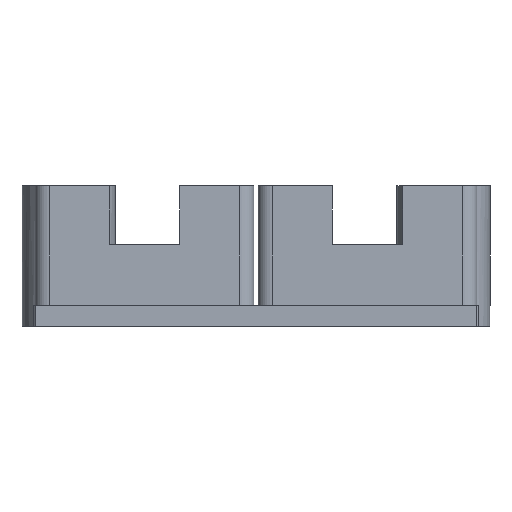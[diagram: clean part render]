
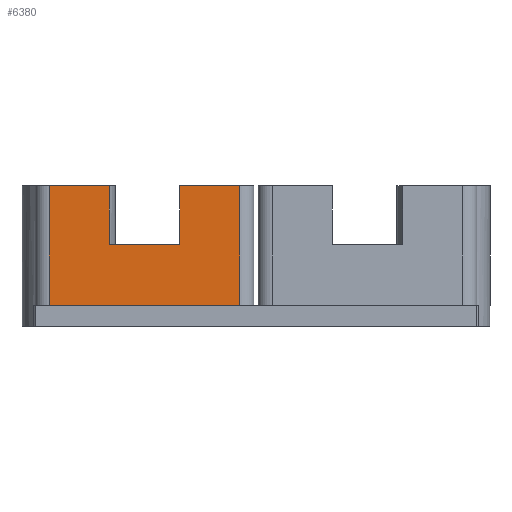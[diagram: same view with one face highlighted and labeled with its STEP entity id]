
A CAD part, front view. The second image highlights one B-rep face of the part: STEP entity #6380.
In plain terms, the highlighted planar face has unit normal (0, -1, 0).
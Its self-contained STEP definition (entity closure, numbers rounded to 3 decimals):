
#836 = PLANE('',#837);
#837 = AXIS2_PLACEMENT_3D('',#838,#839,#840);
#838 = CARTESIAN_POINT('',(-37.925,0.175,11.8));
#839 = DIRECTION('',(0.,0.,1.));
#840 = DIRECTION('',(1.,0.,0.));
#1016 = PLANE('',#1017);
#1017 = AXIS2_PLACEMENT_3D('',#1018,#1019,#1020);
#1018 = CARTESIAN_POINT('',(-18.875,19.225,22.));
#1019 = DIRECTION('',(0.,0.,1.));
#1020 = DIRECTION('',(1.,0.,0.));
#1042 = CYLINDRICAL_SURFACE('',#1043,1.2);
#1043 = AXIS2_PLACEMENT_3D('',#1044,#1045,#1046);
#1044 = CARTESIAN_POINT('',(-17.675,20.425,11.8));
#1045 = DIRECTION('',(0.,0.,1.));
#1046 = DIRECTION('',(-1.,-0.,0.));
#3582 = VERTEX_POINT('',#3583);
#3583 = CARTESIAN_POINT('',(-1.375,19.225,11.8));
#3602 = CYLINDRICAL_SURFACE('',#3603,1.2);
#3603 = AXIS2_PLACEMENT_3D('',#3604,#3605,#3606);
#3604 = CARTESIAN_POINT('',(-1.375,20.425,11.8));
#3605 = DIRECTION('',(0.,0.,1.));
#3606 = DIRECTION('',(1.,0.,-0.));
#3614 = EDGE_CURVE('',#3615,#3582,#3617,.T.);
#3615 = VERTEX_POINT('',#3616);
#3616 = CARTESIAN_POINT('',(-17.675,19.225,11.8));
#3617 = SURFACE_CURVE('',#3618,(#3622,#3629),.PCURVE_S1.);
#3618 = LINE('',#3619,#3620);
#3619 = CARTESIAN_POINT('',(-18.875,19.225,11.8));
#3620 = VECTOR('',#3621,1.);
#3621 = DIRECTION('',(1.,0.,0.));
#3622 = PCURVE('',#836,#3623);
#3623 = DEFINITIONAL_REPRESENTATION('',(#3624),#3628);
#3624 = LINE('',#3625,#3626);
#3625 = CARTESIAN_POINT('',(19.05,19.05));
#3626 = VECTOR('',#3627,1.);
#3627 = DIRECTION('',(1.,0.));
#3628 = ( GEOMETRIC_REPRESENTATION_CONTEXT(2) 
PARAMETRIC_REPRESENTATION_CONTEXT() REPRESENTATION_CONTEXT('2D SPACE',''
  ) );
#3629 = PCURVE('',#3630,#3635);
#3630 = PLANE('',#3631);
#3631 = AXIS2_PLACEMENT_3D('',#3632,#3633,#3634);
#3632 = CARTESIAN_POINT('',(-18.875,19.225,11.8));
#3633 = DIRECTION('',(0.,1.,0.));
#3634 = DIRECTION('',(0.,0.,1.));
#3635 = DEFINITIONAL_REPRESENTATION('',(#3636),#3640);
#3636 = LINE('',#3637,#3638);
#3637 = CARTESIAN_POINT('',(0.,0.));
#3638 = VECTOR('',#3639,1.);
#3639 = DIRECTION('',(0.,1.));
#3640 = ( GEOMETRIC_REPRESENTATION_CONTEXT(2) 
PARAMETRIC_REPRESENTATION_CONTEXT() REPRESENTATION_CONTEXT('2D SPACE',''
  ) );
#3668 = EDGE_CURVE('',#3615,#3669,#3671,.T.);
#3669 = VERTEX_POINT('',#3670);
#3670 = CARTESIAN_POINT('',(-17.675,19.225,22.));
#3671 = SURFACE_CURVE('',#3672,(#3676,#3683),.PCURVE_S1.);
#3672 = LINE('',#3673,#3674);
#3673 = CARTESIAN_POINT('',(-17.675,19.225,11.8));
#3674 = VECTOR('',#3675,1.);
#3675 = DIRECTION('',(0.,0.,1.));
#3676 = PCURVE('',#1042,#3677);
#3677 = DEFINITIONAL_REPRESENTATION('',(#3678),#3682);
#3678 = LINE('',#3679,#3680);
#3679 = CARTESIAN_POINT('',(1.571,0.));
#3680 = VECTOR('',#3681,1.);
#3681 = DIRECTION('',(0.,1.));
#3682 = ( GEOMETRIC_REPRESENTATION_CONTEXT(2) 
PARAMETRIC_REPRESENTATION_CONTEXT() REPRESENTATION_CONTEXT('2D SPACE',''
  ) );
#3683 = PCURVE('',#3630,#3684);
#3684 = DEFINITIONAL_REPRESENTATION('',(#3685),#3689);
#3685 = LINE('',#3686,#3687);
#3686 = CARTESIAN_POINT('',(0.,1.2));
#3687 = VECTOR('',#3688,1.);
#3688 = DIRECTION('',(1.,0.));
#3689 = ( GEOMETRIC_REPRESENTATION_CONTEXT(2) 
PARAMETRIC_REPRESENTATION_CONTEXT() REPRESENTATION_CONTEXT('2D SPACE',''
  ) );
#3719 = EDGE_CURVE('',#3669,#3720,#3722,.T.);
#3720 = VERTEX_POINT('',#3721);
#3721 = CARTESIAN_POINT('',(-12.525,19.225,22.));
#3722 = SURFACE_CURVE('',#3723,(#3727,#3734),.PCURVE_S1.);
#3723 = LINE('',#3724,#3725);
#3724 = CARTESIAN_POINT('',(-18.875,19.225,22.));
#3725 = VECTOR('',#3726,1.);
#3726 = DIRECTION('',(1.,0.,0.));
#3727 = PCURVE('',#1016,#3728);
#3728 = DEFINITIONAL_REPRESENTATION('',(#3729),#3733);
#3729 = LINE('',#3730,#3731);
#3730 = CARTESIAN_POINT('',(0.,0.));
#3731 = VECTOR('',#3732,1.);
#3732 = DIRECTION('',(1.,0.));
#3733 = ( GEOMETRIC_REPRESENTATION_CONTEXT(2) 
PARAMETRIC_REPRESENTATION_CONTEXT() REPRESENTATION_CONTEXT('2D SPACE',''
  ) );
#3734 = PCURVE('',#3630,#3735);
#3735 = DEFINITIONAL_REPRESENTATION('',(#3736),#3740);
#3736 = LINE('',#3737,#3738);
#3737 = CARTESIAN_POINT('',(10.2,0.));
#3738 = VECTOR('',#3739,1.);
#3739 = DIRECTION('',(0.,1.));
#3740 = ( GEOMETRIC_REPRESENTATION_CONTEXT(2) 
PARAMETRIC_REPRESENTATION_CONTEXT() REPRESENTATION_CONTEXT('2D SPACE',''
  ) );
#3757 = PLANE('',#3758);
#3758 = AXIS2_PLACEMENT_3D('',#3759,#3760,#3761);
#3759 = CARTESIAN_POINT('',(-12.525,18.075,17.));
#3760 = DIRECTION('',(1.,0.,0.));
#3761 = DIRECTION('',(0.,0.,1.));
#6380 = ADVANCED_FACE('',(#6381),#3630,.F.);
#6381 = FACE_BOUND('',#6382,.F.);
#6382 = EDGE_LOOP('',(#6383,#6384,#6385,#6386,#6407,#6433,#6459,#6487));
#6383 = ORIENTED_EDGE('',*,*,#3614,.F.);
#6384 = ORIENTED_EDGE('',*,*,#3668,.T.);
#6385 = ORIENTED_EDGE('',*,*,#3719,.T.);
#6386 = ORIENTED_EDGE('',*,*,#6387,.T.);
#6387 = EDGE_CURVE('',#3720,#6388,#6390,.T.);
#6388 = VERTEX_POINT('',#6389);
#6389 = CARTESIAN_POINT('',(-12.525,19.225,17.));
#6390 = SURFACE_CURVE('',#6391,(#6395,#6401),.PCURVE_S1.);
#6391 = LINE('',#6392,#6393);
#6392 = CARTESIAN_POINT('',(-12.525,19.225,14.4));
#6393 = VECTOR('',#6394,1.);
#6394 = DIRECTION('',(0.,0.,-1.));
#6395 = PCURVE('',#3630,#6396);
#6396 = DEFINITIONAL_REPRESENTATION('',(#6397),#6400);
#6397 = B_SPLINE_CURVE_WITH_KNOTS('',1,(#6398,#6399),.UNSPECIFIED.,.F.,
  .F.,(2,2),(-7.6,-2.6),.PIECEWISE_BEZIER_KNOTS.);
#6398 = CARTESIAN_POINT('',(10.2,6.35));
#6399 = CARTESIAN_POINT('',(5.2,6.35));
#6400 = ( GEOMETRIC_REPRESENTATION_CONTEXT(2) 
PARAMETRIC_REPRESENTATION_CONTEXT() REPRESENTATION_CONTEXT('2D SPACE',''
  ) );
#6401 = PCURVE('',#3757,#6402);
#6402 = DEFINITIONAL_REPRESENTATION('',(#6403),#6406);
#6403 = B_SPLINE_CURVE_WITH_KNOTS('',1,(#6404,#6405),.UNSPECIFIED.,.F.,
  .F.,(2,2),(-7.6,-2.6),.PIECEWISE_BEZIER_KNOTS.);
#6404 = CARTESIAN_POINT('',(5.,-1.15));
#6405 = CARTESIAN_POINT('',(0.,-1.15));
#6406 = ( GEOMETRIC_REPRESENTATION_CONTEXT(2) 
PARAMETRIC_REPRESENTATION_CONTEXT() REPRESENTATION_CONTEXT('2D SPACE',''
  ) );
#6407 = ORIENTED_EDGE('',*,*,#6408,.T.);
#6408 = EDGE_CURVE('',#6388,#6409,#6411,.T.);
#6409 = VERTEX_POINT('',#6410);
#6410 = CARTESIAN_POINT('',(-6.525,19.225,17.));
#6411 = SURFACE_CURVE('',#6412,(#6416,#6422),.PCURVE_S1.);
#6412 = LINE('',#6413,#6414);
#6413 = CARTESIAN_POINT('',(-15.7,19.225,17.));
#6414 = VECTOR('',#6415,1.);
#6415 = DIRECTION('',(1.,0.,0.));
#6416 = PCURVE('',#3630,#6417);
#6417 = DEFINITIONAL_REPRESENTATION('',(#6418),#6421);
#6418 = B_SPLINE_CURVE_WITH_KNOTS('',1,(#6419,#6420),.UNSPECIFIED.,.F.,
  .F.,(2,2),(3.175,9.175),.PIECEWISE_BEZIER_KNOTS.);
#6419 = CARTESIAN_POINT('',(5.2,6.35));
#6420 = CARTESIAN_POINT('',(5.2,12.35));
#6421 = ( GEOMETRIC_REPRESENTATION_CONTEXT(2) 
PARAMETRIC_REPRESENTATION_CONTEXT() REPRESENTATION_CONTEXT('2D SPACE',''
  ) );
#6422 = PCURVE('',#6423,#6428);
#6423 = PLANE('',#6424);
#6424 = AXIS2_PLACEMENT_3D('',#6425,#6426,#6427);
#6425 = CARTESIAN_POINT('',(-12.525,18.075,17.));
#6426 = DIRECTION('',(0.,0.,1.));
#6427 = DIRECTION('',(1.,0.,0.));
#6428 = DEFINITIONAL_REPRESENTATION('',(#6429),#6432);
#6429 = B_SPLINE_CURVE_WITH_KNOTS('',1,(#6430,#6431),.UNSPECIFIED.,.F.,
  .F.,(2,2),(3.175,9.175),.PIECEWISE_BEZIER_KNOTS.);
#6430 = CARTESIAN_POINT('',(0.,1.15));
#6431 = CARTESIAN_POINT('',(6.,1.15));
#6432 = ( GEOMETRIC_REPRESENTATION_CONTEXT(2) 
PARAMETRIC_REPRESENTATION_CONTEXT() REPRESENTATION_CONTEXT('2D SPACE',''
  ) );
#6433 = ORIENTED_EDGE('',*,*,#6434,.F.);
#6434 = EDGE_CURVE('',#6435,#6409,#6437,.T.);
#6435 = VERTEX_POINT('',#6436);
#6436 = CARTESIAN_POINT('',(-6.525,19.225,22.));
#6437 = SURFACE_CURVE('',#6438,(#6442,#6448),.PCURVE_S1.);
#6438 = LINE('',#6439,#6440);
#6439 = CARTESIAN_POINT('',(-6.525,19.225,14.4));
#6440 = VECTOR('',#6441,1.);
#6441 = DIRECTION('',(0.,0.,-1.));
#6442 = PCURVE('',#3630,#6443);
#6443 = DEFINITIONAL_REPRESENTATION('',(#6444),#6447);
#6444 = B_SPLINE_CURVE_WITH_KNOTS('',1,(#6445,#6446),.UNSPECIFIED.,.F.,
  .F.,(2,2),(-7.6,-2.6),.PIECEWISE_BEZIER_KNOTS.);
#6445 = CARTESIAN_POINT('',(10.2,12.35));
#6446 = CARTESIAN_POINT('',(5.2,12.35));
#6447 = ( GEOMETRIC_REPRESENTATION_CONTEXT(2) 
PARAMETRIC_REPRESENTATION_CONTEXT() REPRESENTATION_CONTEXT('2D SPACE',''
  ) );
#6448 = PCURVE('',#6449,#6454);
#6449 = PLANE('',#6450);
#6450 = AXIS2_PLACEMENT_3D('',#6451,#6452,#6453);
#6451 = CARTESIAN_POINT('',(-6.525,18.075,17.));
#6452 = DIRECTION('',(1.,0.,0.));
#6453 = DIRECTION('',(0.,0.,1.));
#6454 = DEFINITIONAL_REPRESENTATION('',(#6455),#6458);
#6455 = B_SPLINE_CURVE_WITH_KNOTS('',1,(#6456,#6457),.UNSPECIFIED.,.F.,
  .F.,(2,2),(-7.6,-2.6),.PIECEWISE_BEZIER_KNOTS.);
#6456 = CARTESIAN_POINT('',(5.,-1.15));
#6457 = CARTESIAN_POINT('',(0.,-1.15));
#6458 = ( GEOMETRIC_REPRESENTATION_CONTEXT(2) 
PARAMETRIC_REPRESENTATION_CONTEXT() REPRESENTATION_CONTEXT('2D SPACE',''
  ) );
#6459 = ORIENTED_EDGE('',*,*,#6460,.T.);
#6460 = EDGE_CURVE('',#6435,#6461,#6463,.T.);
#6461 = VERTEX_POINT('',#6462);
#6462 = CARTESIAN_POINT('',(-1.375,19.225,22.));
#6463 = SURFACE_CURVE('',#6464,(#6468,#6475),.PCURVE_S1.);
#6464 = LINE('',#6465,#6466);
#6465 = CARTESIAN_POINT('',(-18.875,19.225,22.));
#6466 = VECTOR('',#6467,1.);
#6467 = DIRECTION('',(1.,0.,0.));
#6468 = PCURVE('',#3630,#6469);
#6469 = DEFINITIONAL_REPRESENTATION('',(#6470),#6474);
#6470 = LINE('',#6471,#6472);
#6471 = CARTESIAN_POINT('',(10.2,0.));
#6472 = VECTOR('',#6473,1.);
#6473 = DIRECTION('',(0.,1.));
#6474 = ( GEOMETRIC_REPRESENTATION_CONTEXT(2) 
PARAMETRIC_REPRESENTATION_CONTEXT() REPRESENTATION_CONTEXT('2D SPACE',''
  ) );
#6475 = PCURVE('',#6476,#6481);
#6476 = PLANE('',#6477);
#6477 = AXIS2_PLACEMENT_3D('',#6478,#6479,#6480);
#6478 = CARTESIAN_POINT('',(-18.875,19.225,22.));
#6479 = DIRECTION('',(0.,0.,1.));
#6480 = DIRECTION('',(1.,0.,0.));
#6481 = DEFINITIONAL_REPRESENTATION('',(#6482),#6486);
#6482 = LINE('',#6483,#6484);
#6483 = CARTESIAN_POINT('',(0.,0.));
#6484 = VECTOR('',#6485,1.);
#6485 = DIRECTION('',(1.,0.));
#6486 = ( GEOMETRIC_REPRESENTATION_CONTEXT(2) 
PARAMETRIC_REPRESENTATION_CONTEXT() REPRESENTATION_CONTEXT('2D SPACE',''
  ) );
#6487 = ORIENTED_EDGE('',*,*,#6488,.F.);
#6488 = EDGE_CURVE('',#3582,#6461,#6489,.T.);
#6489 = SURFACE_CURVE('',#6490,(#6494,#6501),.PCURVE_S1.);
#6490 = LINE('',#6491,#6492);
#6491 = CARTESIAN_POINT('',(-1.375,19.225,11.8));
#6492 = VECTOR('',#6493,1.);
#6493 = DIRECTION('',(0.,0.,1.));
#6494 = PCURVE('',#3630,#6495);
#6495 = DEFINITIONAL_REPRESENTATION('',(#6496),#6500);
#6496 = LINE('',#6497,#6498);
#6497 = CARTESIAN_POINT('',(0.,17.5));
#6498 = VECTOR('',#6499,1.);
#6499 = DIRECTION('',(1.,0.));
#6500 = ( GEOMETRIC_REPRESENTATION_CONTEXT(2) 
PARAMETRIC_REPRESENTATION_CONTEXT() REPRESENTATION_CONTEXT('2D SPACE',''
  ) );
#6501 = PCURVE('',#3602,#6502);
#6502 = DEFINITIONAL_REPRESENTATION('',(#6503),#6507);
#6503 = LINE('',#6504,#6505);
#6504 = CARTESIAN_POINT('',(-1.571,0.));
#6505 = VECTOR('',#6506,1.);
#6506 = DIRECTION('',(-0.,1.));
#6507 = ( GEOMETRIC_REPRESENTATION_CONTEXT(2) 
PARAMETRIC_REPRESENTATION_CONTEXT() REPRESENTATION_CONTEXT('2D SPACE',''
  ) );
